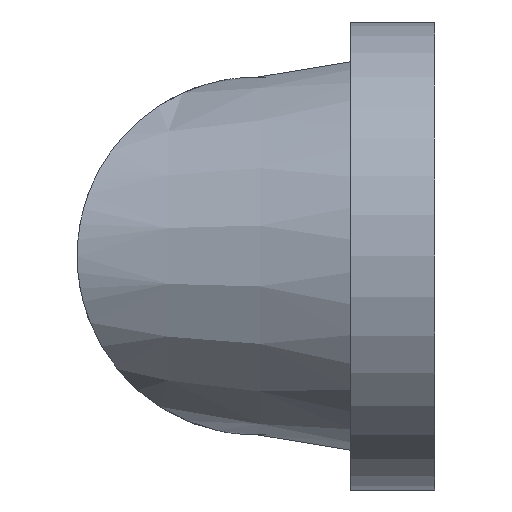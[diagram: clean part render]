
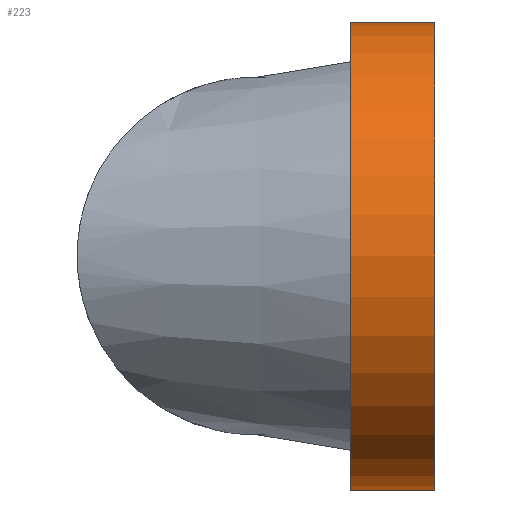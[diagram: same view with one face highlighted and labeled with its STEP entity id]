
A CAD part, left-side view. The second image highlights one B-rep face of the part: STEP entity #223.
In plain terms, the highlighted cylindrical face has radius 22.25 mm (diameter 44.5 mm), a partial arc.
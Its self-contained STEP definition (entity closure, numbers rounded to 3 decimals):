
#15 = CARTESIAN_POINT ( 'NONE',  ( -50., 0., 0. ) ) ;
#25 = DIRECTION ( 'NONE',  ( 0., -1., 0. ) ) ;
#33 = AXIS2_PLACEMENT_3D ( 'NONE', #15, #400, #73 ) ;
#37 = LINE ( 'NONE', #537, #611 ) ;
#55 = CIRCLE ( 'NONE', #33, 22.25 ) ;
#59 = VERTEX_POINT ( 'NONE', #422 ) ;
#73 = DIRECTION ( 'NONE',  ( 0., 0., 1. ) ) ;
#87 = DIRECTION ( 'NONE',  ( 0., -1., 0. ) ) ;
#109 = ORIENTED_EDGE ( 'NONE', *, *, #186, .F. ) ;
#166 = VERTEX_POINT ( 'NONE', #601 ) ;
#186 = EDGE_CURVE ( 'NONE', #704, #166, #496, .T. ) ;
#223 = ADVANCED_FACE ( 'NONE', ( #617 ), #307, .T. ) ;
#243 = ORIENTED_EDGE ( 'NONE', *, *, #459, .T. ) ;
#307 = CYLINDRICAL_SURFACE ( 'NONE', #562, 22.25 ) ;
#317 = DIRECTION ( 'NONE',  ( 0., 0., -1. ) ) ;
#319 = CARTESIAN_POINT ( 'NONE',  ( -50., 8., 22.25 ) ) ;
#335 = EDGE_CURVE ( 'NONE', #166, #59, #55, .T. ) ;
#341 = ORIENTED_EDGE ( 'NONE', *, *, #335, .F. ) ;
#343 = VECTOR ( 'NONE', #491, 1000. ) ;
#361 = CARTESIAN_POINT ( 'NONE',  ( -50., 8., 0. ) ) ;
#375 = CARTESIAN_POINT ( 'NONE',  ( -50., 8., 22.25 ) ) ;
#400 = DIRECTION ( 'NONE',  ( 0., -1., 0. ) ) ;
#408 = CIRCLE ( 'NONE', #443, 22.25 ) ;
#410 = DIRECTION ( 'NONE',  ( 0., 0., 1. ) ) ;
#422 = CARTESIAN_POINT ( 'NONE',  ( -50., 0., -22.25 ) ) ;
#443 = AXIS2_PLACEMENT_3D ( 'NONE', #361, #25, #410 ) ;
#459 = EDGE_CURVE ( 'NONE', #704, #594, #408, .T. ) ;
#472 = EDGE_LOOP ( 'NONE', ( #341, #109, #243, #613 ) ) ;
#491 = DIRECTION ( 'NONE',  ( 0., -1., 0. ) ) ;
#496 = LINE ( 'NONE', #375, #343 ) ;
#497 = CARTESIAN_POINT ( 'NONE',  ( -50., 8., 0. ) ) ;
#537 = CARTESIAN_POINT ( 'NONE',  ( -50., 8., -22.25 ) ) ;
#553 = DIRECTION ( 'NONE',  ( 0., -1., 0. ) ) ;
#562 = AXIS2_PLACEMENT_3D ( 'NONE', #497, #553, #317 ) ;
#594 = VERTEX_POINT ( 'NONE', #695 ) ;
#601 = CARTESIAN_POINT ( 'NONE',  ( -50., 0., 22.25 ) ) ;
#609 = EDGE_CURVE ( 'NONE', #594, #59, #37, .T. ) ;
#611 = VECTOR ( 'NONE', #87, 1000. ) ;
#613 = ORIENTED_EDGE ( 'NONE', *, *, #609, .T. ) ;
#617 = FACE_OUTER_BOUND ( 'NONE', #472, .T. ) ;
#695 = CARTESIAN_POINT ( 'NONE',  ( -50., 8., -22.25 ) ) ;
#704 = VERTEX_POINT ( 'NONE', #319 ) ;
